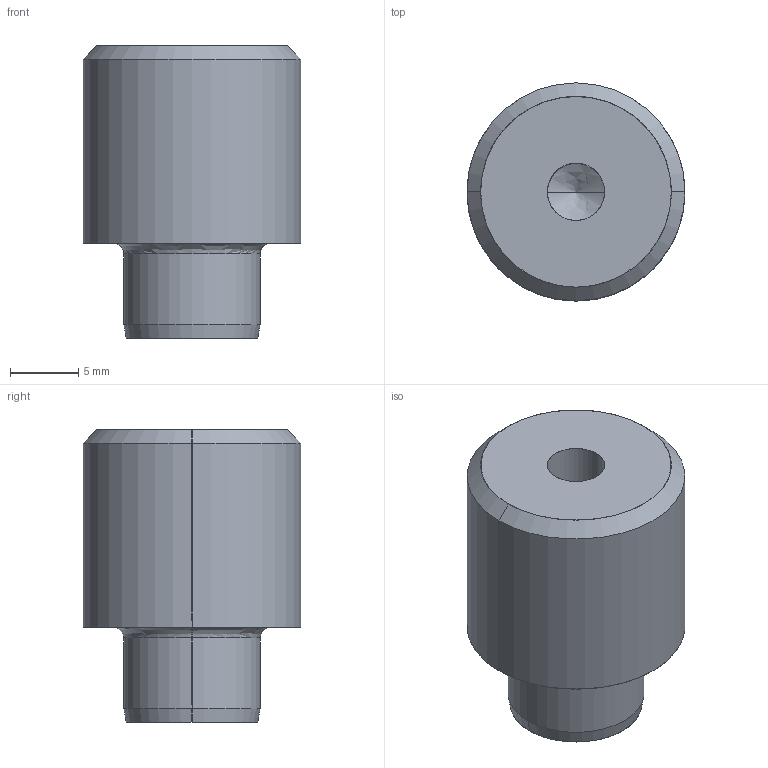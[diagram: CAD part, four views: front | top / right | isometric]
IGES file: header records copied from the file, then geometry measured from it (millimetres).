
Start section: SolidWorks IGES file using analytic representation for surfaces
Global section: file name: D:\Current\W1\TPNFP16-7.igs; native system: SolidWorks 2017; preprocessor: SolidWorks 2017; author: Ravi Kalvai; date: 240430.153248; units: millimetre
Bounding box: 16 x 16 x 21.5 mm (x, y, z)
Surface area: 1478 mm2 (no closed solid volume)
Topology: 0 solids, 0 shells, 17 faces, 216 edges, 214 vertices
Faces by surface type: revolution 12, bspline 5
